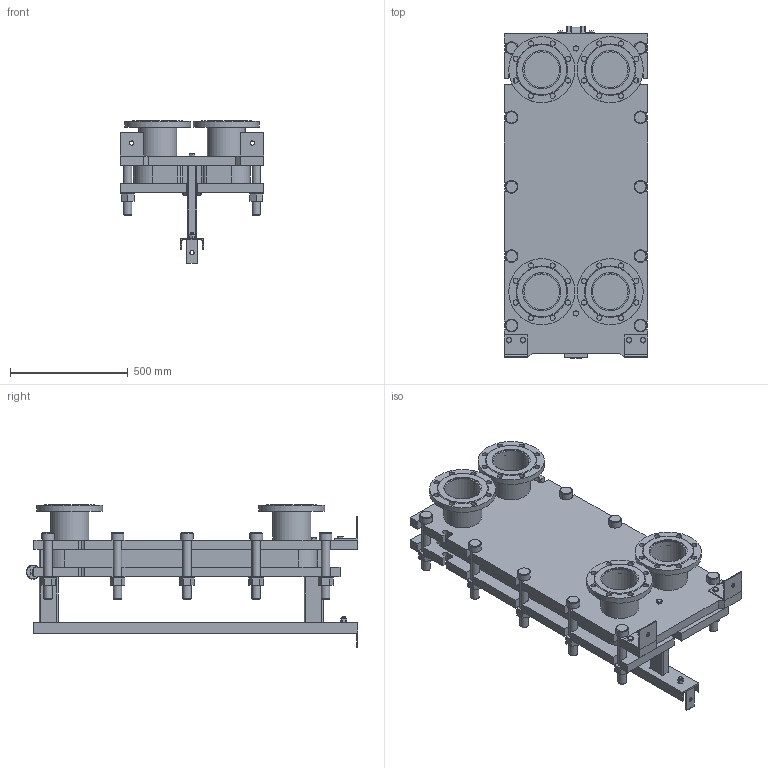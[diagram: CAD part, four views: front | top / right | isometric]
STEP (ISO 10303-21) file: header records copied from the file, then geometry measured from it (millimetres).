
FILE_DESCRIPTION(/* description */ (''),/* implementation_level */ '2;1');
FILE_NAME(/* name */ 'C:\Users\zhuro\Desktop\ENCO\TO\ЭН-041\ЭН-0,5-041-22-1.stp',/* time_stamp */ '2022-06-06T10:49:54+03:00',/* author */ ('zhuro'),/* organization */ (''),/* preprocessor_version */ 'ST-DEVELOPER v18.1',/* originating_system */ 'Autodesk Inventor 2022',/* authorisation */ '');
FILE_SCHEMA (('AUTOMOTIVE_DESIGN { 1 0 10303 214 3 1 1 }'));
Length unit declared in the file: millimetre
Products named in the file (1): ЭН-0,5-041-22-1
Bounding box: 610 x 1406.5 x 605 mm (x, y, z)
Volume: 117680881.8 mm3; surface area: 7304675.1 mm2
Topology: 52 solids, 52 shells, 711 faces, 1696 edges, 1094 vertices
Faces by surface type: plane 487, cylinder 177, cone 41, torus 6
Full cylindrical faces by diameter (mm): 8 x4, 10 x2, 16 x8, 18 x3, 22 x32, 36 x24, 50 x1, 54 x10, 60 x12, 151 x4, 161 x8, 280 x4
Entity records: 22667 total; most frequent: CARTESIAN_POINT 5230, DIRECTION 3644, ORIENTED_EDGE 3392, EDGE_CURVE 1696, AXIS2_PLACEMENT_3D 1272, LINE 1100, VECTOR 1100, VERTEX_POINT 1094
